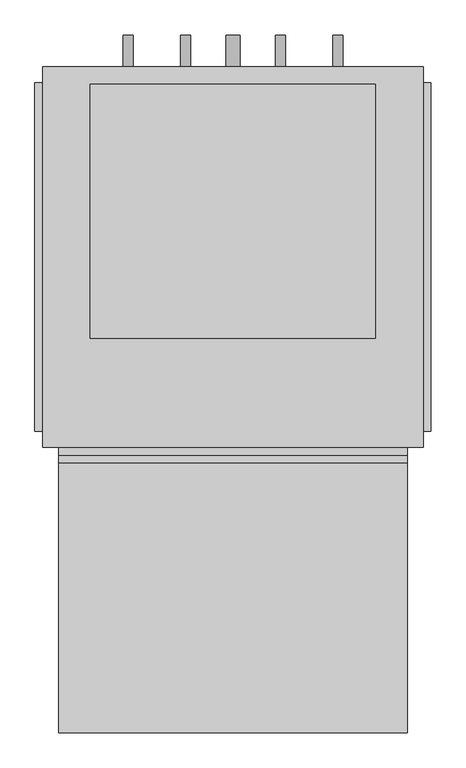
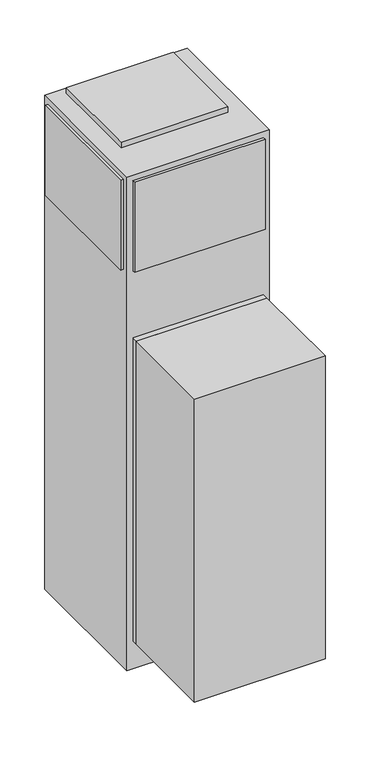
"""IFC4 building model written with IfcOpenShell, lengths in millimetres: proxy geometry, Concealed_Universal_Modular_Fan_Coil_Unit_-_MUY_-_IEC_-_4-Pipe_-_NoRisers_2022 : Size 12 - 277v/60Hz/1Ph - 4/1 Coil."""

from ifc_helpers import new_model, si_unit, point, frame, frame_2d, origin, origin_with_axes, place, context, project, spatial, polyline, circle_curve, trimmed, segment, composite_curve, outline, extrude, source, transform, mapped, element, save


def mechanical_equipment_4a7a0854(model_context):
    return source(origin(), model_context, "Body", "SweptSolid", [
        extrude(outline(polyline([(1356.1480703, 341.3868862), (1346.2, 373.5602728), (1488.3709244, 373.5602728), (1465.3489183, 341.3868862), (1356.1480703, 341.3868862)])), frame((0.0, -393.7, 0.0), z_axis=(0.0, 1.0, 0.0), x_axis=(0.0, 0.0, 1.0)), (0.0, 0.0, 1.0), 3.175),
        extrude(outline(polyline([(1435.1473557, 380.3186058), (1431.9449632, 406.4), (1461.1738042, 406.4), (1469.2382193, 380.3186058), (1435.1473557, 380.3186058)])), frame((0.0, -393.7, 0.0), z_axis=(0.0, 1.0, 0.0), x_axis=(0.0, 0.0, 1.0)), (0.0, 0.0, 1.0), 3.175),
        extrude(outline(polyline([(1383.2838288, 406.4), (1379.6183279, 380.3186058), (1346.2, 380.3186058), (1354.8342372, 406.4), (1383.2838288, 406.4)])), frame((0.0, -393.7, 0.0), z_axis=(0.0, 1.0, 0.0), x_axis=(0.0, 0.0, 1.0)), (0.0, 0.0, 1.0), 3.175),
        extrude(outline(polyline([(1422.5989903, 406.4), (1424.8808166, 380.3186058), (1388.9432681, 380.3186058), (1391.6845331, 406.4), (1422.5989903, 406.4)])), frame((0.0, -393.7, 0.0), z_axis=(0.0, 1.0, 0.0), x_axis=(0.0, 0.0, 1.0)), (0.0, 0.0, 1.0), 3.175),
        extrude(outline(polyline([(736.6, -390.525), (736.6, -822.325), (177.8, -822.325), (177.8, -390.525), (736.6, -390.525)])), frame((0.0, 0.0, 127.0), z_axis=(0.0, 0.0, 1.0), x_axis=(1.0, 0.0, 0.0)), (0.0, 0.0, 1.0), 1371.6),
        extrude(outline(composite_curve([segment(trimmed(circle_curve(frame_2d((990.6, 625.475)), 7.9375), [point((990.6, 617.5375))], [point((990.6, 633.4125))], False, "CARTESIAN"), True, "CONTINUOUS"), segment(trimmed(circle_curve(frame_2d((990.6, 625.475)), 7.9375), [point((990.6, 633.4125))], [point((990.6, 617.5375))], False, "CARTESIAN"), True, "CONTINUOUS")], self_intersect=False)), frame((0.0, 244.475, 0.0), z_axis=(0.0, 1.0, 0.0), x_axis=(0.0, 0.0, 1.0)), (0.0, 0.0, 1.0), 50.8),
        extrude(outline(composite_curve([segment(trimmed(circle_curve(frame_2d((990.6, 533.4)), 7.9375), [point((990.6, 525.4625))], [point((990.6, 541.3375))], False, "CARTESIAN"), True, "CONTINUOUS"), segment(trimmed(circle_curve(frame_2d((990.6, 533.4)), 7.9375), [point((990.6, 541.3375))], [point((990.6, 525.4625))], False, "CARTESIAN"), True, "CONTINUOUS")], self_intersect=False)), frame((0.0, 244.475, 0.0), z_axis=(0.0, 1.0, 0.0), x_axis=(0.0, 0.0, 1.0)), (0.0, 0.0, 1.0), 50.8),
        extrude(outline(composite_curve([segment(trimmed(circle_curve(frame_2d((990.6, 381.0)), 7.9375), [point((990.6, 373.0625))], [point((990.6, 388.9375))], False, "CARTESIAN"), True, "CONTINUOUS"), segment(trimmed(circle_curve(frame_2d((990.6, 381.0)), 7.9375), [point((990.6, 388.9375))], [point((990.6, 373.0625))], False, "CARTESIAN"), True, "CONTINUOUS")], self_intersect=False)), frame((0.0, 244.475, 0.0), z_axis=(0.0, 1.0, 0.0), x_axis=(0.0, 0.0, 1.0)), (0.0, 0.0, 1.0), 50.8),
        extrude(outline(composite_curve([segment(trimmed(circle_curve(frame_2d((990.6, 288.925)), 7.9375), [point((990.6, 280.9875))], [point((990.6, 296.8625))], False, "CARTESIAN"), True, "CONTINUOUS"), segment(trimmed(circle_curve(frame_2d((990.6, 288.925)), 7.9375), [point((990.6, 296.8625))], [point((990.6, 280.9875))], False, "CARTESIAN"), True, "CONTINUOUS")], self_intersect=False)), frame((0.0, 244.475, 0.0), z_axis=(0.0, 1.0, 0.0), x_axis=(0.0, 0.0, 1.0)), (0.0, 0.0, 1.0), 50.8),
        extrude(outline(composite_curve([segment(trimmed(circle_curve(frame_2d((76.2, 457.2)), 11.1125), [point((76.2, 446.0875))], [point((76.2, 468.3125))], False, "CARTESIAN"), True, "CONTINUOUS"), segment(trimmed(circle_curve(frame_2d((76.2, 457.2)), 11.1125), [point((76.2, 468.3125))], [point((76.2, 446.0875))], False, "CARTESIAN"), True, "CONTINUOUS")], self_intersect=False)), frame((0.0, 244.475, 0.0), z_axis=(0.0, 1.0, 0.0), x_axis=(0.0, 0.0, 1.0)), (0.0, 0.0, 1.0), 50.8),
        extrude(outline(polyline([(685.8, 215.9), (685.8, -190.5), (228.6, -190.5), (228.6, 215.9), (685.8, 215.9)])), frame((0.0, 0.0, 2235.2), z_axis=(0.0, 0.0, 1.0), x_axis=(1.0, 0.0, 0.0)), (0.0, 0.0, 1.0), 25.4),
        extrude(outline(polyline([(139.7, -339.725), (139.7, 219.075), (152.4, 219.075), (152.4, -339.725), (139.7, -339.725)])), frame((0.0, 0.0, 1803.4), z_axis=(0.0, 0.0, 1.0), x_axis=(1.0, 0.0, 0.0)), (0.0, 0.0, 1.0), 406.4),
        extrude(outline(polyline([(774.7, 219.075), (774.7, -339.725), (762.0, -339.725), (762.0, 219.075), (774.7, 219.075)])), frame((0.0, 0.0, 1803.4), z_axis=(0.0, 0.0, 1.0), x_axis=(1.0, 0.0, 0.0)), (0.0, 0.0, 1.0), 406.4),
        extrude(outline(polyline([(736.6, -377.825), (177.8, -377.825), (177.8, -365.125), (736.6, -365.125), (736.6, -377.825)])), frame((0.0, 0.0, 1803.4), z_axis=(0.0, 0.0, 1.0), x_axis=(1.0, 0.0, 0.0)), (0.0, 0.0, 1.0), 406.4),
        extrude(outline(polyline([(736.6, -390.525), (177.8, -390.525), (177.8, -365.125), (736.6, -365.125), (736.6, -390.525)])), frame((0.0, 0.0, 127.0), z_axis=(0.0, 0.0, 1.0), x_axis=(1.0, 0.0, 0.0)), (0.0, 0.0, 1.0), 1371.6),
        extrude(outline(polyline([(762.0, 244.475), (762.0, -365.125), (152.4, -365.125), (152.4, 244.475), (762.0, 244.475)])), origin_with_axes(), (0.0, 0.0, 1.0), 2235.2),
    ])


if __name__ == "__main__":
    model = new_model("IFC4")
    model_context = context("Model", 3, world=origin())
    ifc_project = project(units=[si_unit("LENGTHUNIT", "METRE", prefix="MILLI")], contexts=[model_context])
    site = spatial("IfcSite", under=ifc_project)
    building = spatial("IfcBuilding", under=site)
    placement = place(None, origin())
    mechanical_equipment_shape = mechanical_equipment_4a7a0854(model_context)
    element("IfcBuildingElementProxy", 1, Name="Concealed_Universal_Modular_Fan_Coil_Unit_-_MUY_-_IEC_-_4-Pipe_-_NoRisers_2022 : Size 12 - 277v/60Hz/1Ph - 4/1 Coil", ObjectType="Concealed_Universal_Modular_Fan_Coil_Unit_-_MUY_-_IEC_-_4-Pipe_-_NoRisers_2022 : Size 12 - 277v/60Hz/1Ph - 4/1 Coil", at=placement, inside=building, context=model_context, shape_type="MappedRepresentation", body=[
        mapped(mechanical_equipment_shape, transform((0.0, 0.0, 0.0), x_axis=(1.0, 0.0, 0.0), y_axis=(0.0, 1.0, 0.0), z_axis=(0.0, 0.0, 1.0))),
    ])
    save(model, "model.ifc")
